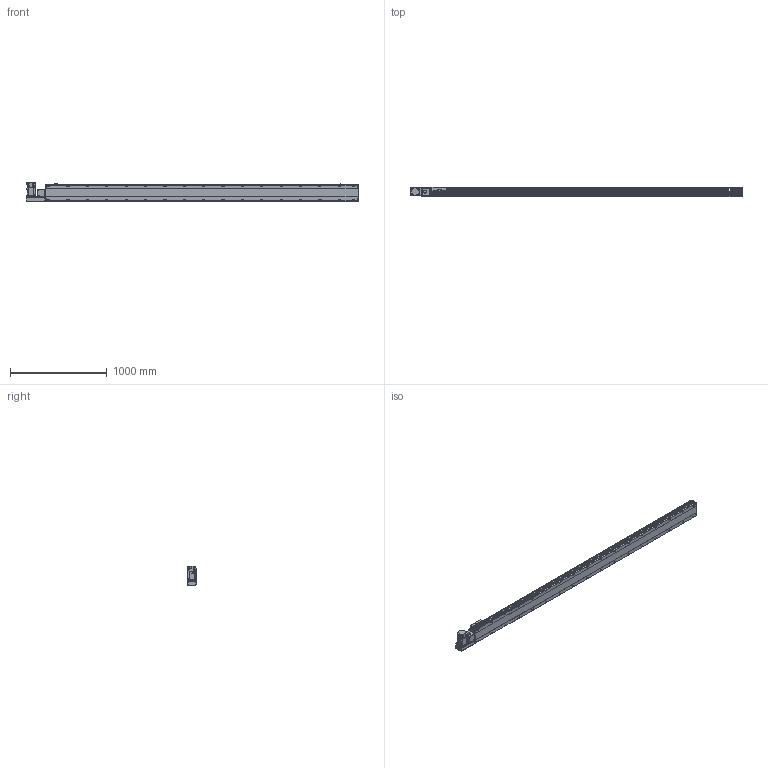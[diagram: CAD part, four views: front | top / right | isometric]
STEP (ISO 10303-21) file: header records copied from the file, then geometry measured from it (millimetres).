
FILE_DESCRIPTION( ( 'STEP AP214' ), '1' );
FILE_NAME( 'x:/temp/worker_3/temp/exporttempdir_5796_129_d7dVN/format_0/PBS170-P40-S2950-L-T75-C1-N(0).stp', '2022-06-07T06:59:30', ( 'License CC BY-ND 4.0' ), ( 'CADENAS' ), ' ', 'PARTsolutions', ' ' );
FILE_SCHEMA( ( 'AUTOMOTIVE_DESIGN { 1 0 10303 214 1 1 1 1 }' ) );
Length unit declared in the file: millimetre
Products named in the file (7): PBS170-P40-S2950-L-T75-C1-N(0); _PBS170-S2950()_body; _PBS170T-L_motors; _T75-p1; _PBS170_sliser; _PBS170_plant; _PBS170_sensor
Assembly tree (8 placements, depth 2):
  PBS170-P40-S2950-L-T75-C1-N(0)
    _PBS170-S2950()_body
    _PBS170T-L_motors
    _T75-p1
    _PBS170_sliser
    _PBS170_plant
    _PBS170_sensor  x3
Bounding box: 3428 x 97 x 197.3 mm (x, y, z)
Volume: 24885339.1 mm3; surface area: 3116293.2 mm2
Topology: 8 solids, 8 shells, 1226 faces, 3235 edges, 2108 vertices
Faces by surface type: plane 741, cylinder 411, cone 64, sphere 8, torus 2
Full cylindrical faces by diameter (mm): 3.242 x4, 4 x2, 4.4 x4, 4.5 x6, 4.917 x4, 6 x9, 6.647 x42, 7 x2, 7.5 x4, 8 x8, 8.5 x34, 10 x4, 10.5 x34, 11 x2, 30 x2, 40 x1, 70 x1
Entity records: 45518 total; most frequent: CARTESIAN_POINT 7733, DIRECTION 5930, ORIENTED_EDGE 5568, EDGE_CURVE 2784, AXIS2_PLACEMENT_3D 2107, VERTEX_POINT 1946, LINE 1716, VECTOR 1716
